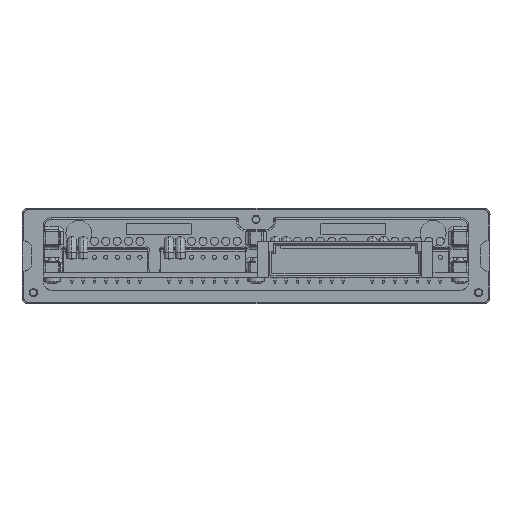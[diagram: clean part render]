
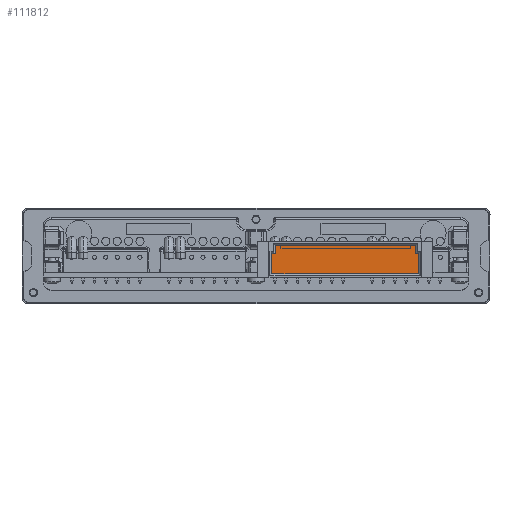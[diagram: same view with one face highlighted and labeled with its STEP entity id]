
A CAD part, left-side view. The second image highlights one B-rep face of the part: STEP entity #111812.
In plain terms, the highlighted free-form (B-spline) face has degree [1, 1] with [2, 2] control points.
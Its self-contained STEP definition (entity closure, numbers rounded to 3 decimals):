
#29932=DIRECTION('',(0.,-1.,0.));
#29933=VECTOR('',#29932,45.2);
#29934=CARTESIAN_POINT('',(-72.29,74.75,24.65));
#29935=LINE('',#29934,#29933);
#29936=DIRECTION('',(0.,0.,-1.));
#29937=VECTOR('',#29936,6.2);
#29938=CARTESIAN_POINT('',(-72.29,74.75,30.85));
#29939=LINE('',#29938,#29937);
#29940=DIRECTION('',(0.,1.,0.));
#29941=VECTOR('',#29940,1.);
#29942=CARTESIAN_POINT('',(-72.29,73.75,30.85));
#29943=LINE('',#29942,#29941);
#29944=DIRECTION('',(0.,0.,-1.));
#29945=VECTOR('',#29944,2.5);
#29946=CARTESIAN_POINT('',(-72.29,73.75,33.35));
#29947=LINE('',#29946,#29945);
#29948=DIRECTION('',(0.,1.,0.));
#29949=VECTOR('',#29948,43.2);
#29950=CARTESIAN_POINT('',(-72.29,30.55,33.35));
#29951=LINE('',#29950,#29949);
#29952=DIRECTION('',(0.,0.,1.));
#29953=VECTOR('',#29952,2.5);
#29954=CARTESIAN_POINT('',(-72.29,30.55,30.85));
#29955=LINE('',#29954,#29953);
#29956=DIRECTION('',(0.,1.,0.));
#29957=VECTOR('',#29956,1.);
#29958=CARTESIAN_POINT('',(-72.29,29.55,30.85));
#29959=LINE('',#29958,#29957);
#29960=DIRECTION('',(0.,0.,1.));
#29961=VECTOR('',#29960,6.2);
#29962=CARTESIAN_POINT('',(-72.29,29.55,24.65));
#29963=LINE('',#29962,#29961);
#33801=CARTESIAN_POINT('',(-72.29,74.75,24.65));
#33802=CARTESIAN_POINT('',(-72.29,29.55,24.65));
#33803=VERTEX_POINT('',#33801);
#33804=VERTEX_POINT('',#33802);
#33805=CARTESIAN_POINT('',(-72.29,29.55,30.85));
#33806=VERTEX_POINT('',#33805);
#33807=CARTESIAN_POINT('',(-72.29,30.55,30.85));
#33808=VERTEX_POINT('',#33807);
#33809=CARTESIAN_POINT('',(-72.29,30.55,33.35));
#33810=VERTEX_POINT('',#33809);
#33811=CARTESIAN_POINT('',(-72.29,73.75,33.35));
#33812=VERTEX_POINT('',#33811);
#33813=CARTESIAN_POINT('',(-72.29,73.75,30.85));
#33814=VERTEX_POINT('',#33813);
#33815=CARTESIAN_POINT('',(-72.29,74.75,30.85));
#33816=VERTEX_POINT('',#33815);
#111797=CARTESIAN_POINT('',(-72.29,28.646,24.476));
#111798=CARTESIAN_POINT('',(-72.29,75.654,24.476));
#111799=CARTESIAN_POINT('',(-72.29,28.646,33.524));
#111800=CARTESIAN_POINT('',(-72.29,75.654,33.524));
#111801=B_SPLINE_SURFACE_WITH_KNOTS('',1,1,((#111797,#111798),(#111799,
#111800)),.UNSPECIFIED.,.F.,.F.,.F.,(2,2),(2,2),(1.026,10.074),(-50.454,
-3.446),.UNSPECIFIED.);
#111802=ORIENTED_EDGE('',*,*,#111659,.F.);
#111803=ORIENTED_EDGE('',*,*,#111680,.F.);
#111804=ORIENTED_EDGE('',*,*,#111701,.F.);
#111805=ORIENTED_EDGE('',*,*,#111722,.F.);
#111806=ORIENTED_EDGE('',*,*,#111743,.F.);
#111807=ORIENTED_EDGE('',*,*,#111764,.F.);
#111808=ORIENTED_EDGE('',*,*,#111784,.F.);
#111809=ORIENTED_EDGE('',*,*,#111637,.F.);
#111810=EDGE_LOOP('',(#111802,#111803,#111804,#111805,#111806,#111807,#111808,
#111809));
#111811=FACE_OUTER_BOUND('',#111810,.F.);
#111812=ADVANCED_FACE('',(#111811),#111801,.T.);
#111637=EDGE_CURVE('',#33804,#33806,#29963,.T.);
#111659=EDGE_CURVE('',#33803,#33804,#29935,.T.);
#111680=EDGE_CURVE('',#33816,#33803,#29939,.T.);
#111701=EDGE_CURVE('',#33814,#33816,#29943,.T.);
#111722=EDGE_CURVE('',#33812,#33814,#29947,.T.);
#111743=EDGE_CURVE('',#33810,#33812,#29951,.T.);
#111764=EDGE_CURVE('',#33808,#33810,#29955,.T.);
#111784=EDGE_CURVE('',#33806,#33808,#29959,.T.);
